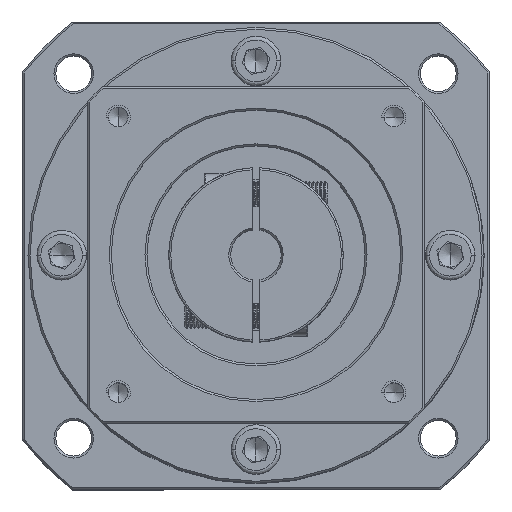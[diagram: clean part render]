
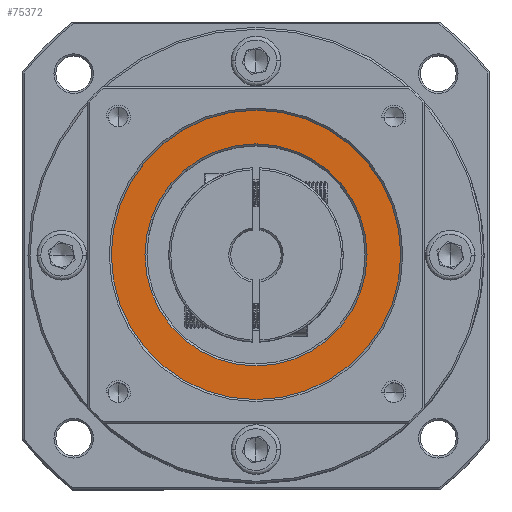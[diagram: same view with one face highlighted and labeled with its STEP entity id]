
A CAD part, top view. The second image highlights one B-rep face of the part: STEP entity #75372.
In plain terms, the highlighted planar face has unit normal (0, 0, 1).
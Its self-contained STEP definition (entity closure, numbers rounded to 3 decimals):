
#545 = DIRECTION ( 'NONE',  ( 0., 0., 1. ) ) ;
#3437 = EDGE_CURVE ( 'NONE', #57305, #42188, #37433, .T. ) ;
#6328 = DIRECTION ( 'NONE',  ( 0., 0., -1. ) ) ;
#16695 = VERTEX_POINT ( 'NONE', #109879 ) ;
#20981 = DIRECTION ( 'NONE',  ( 0., 0., 1. ) ) ;
#23026 = VERTEX_POINT ( 'NONE', #23526 ) ;
#23526 = CARTESIAN_POINT ( 'NONE',  ( 81.574, -0.785, 102.5 ) ) ;
#32195 = DIRECTION ( 'NONE',  ( 0., 0., -1. ) ) ;
#34769 = CARTESIAN_POINT ( 'NONE',  ( 45.074, -0.785, 102.5 ) ) ;
#36275 = CARTESIAN_POINT ( 'NONE',  ( 17.074, -0.785, 102.5 ) ) ;
#36625 = FACE_OUTER_BOUND ( 'NONE', #57461, .T. ) ;
#37433 = CIRCLE ( 'NONE', #77470, 28. ) ;
#41907 = AXIS2_PLACEMENT_3D ( 'NONE', #53164, #545, #61959 ) ;
#42188 = VERTEX_POINT ( 'NONE', #36275 ) ;
#43573 = DIRECTION ( 'NONE',  ( 1., 0., 0. ) ) ;
#46102 = CIRCLE ( 'NONE', #41907, 36.5 ) ;
#47452 = EDGE_LOOP ( 'NONE', ( #67779, #71038 ) ) ;
#50809 = CIRCLE ( 'NONE', #59651, 36.5 ) ;
#53164 = CARTESIAN_POINT ( 'NONE',  ( 45.074, -0.785, 102.5 ) ) ;
#57305 = VERTEX_POINT ( 'NONE', #91188 ) ;
#57461 = EDGE_LOOP ( 'NONE', ( #91327, #69247 ) ) ;
#58886 = CARTESIAN_POINT ( 'NONE',  ( 45.074, -0.785, 102.5 ) ) ;
#59651 = AXIS2_PLACEMENT_3D ( 'NONE', #34769, #95994, #43573 ) ;
#59935 = EDGE_CURVE ( 'NONE', #42188, #57305, #87042, .T. ) ;
#61959 = DIRECTION ( 'NONE',  ( 1., 0., 0. ) ) ;
#64316 = PLANE ( 'NONE',  #92652 ) ;
#65798 = EDGE_CURVE ( 'NONE', #23026, #16695, #50809, .T. ) ;
#67685 = DIRECTION ( 'NONE',  ( 1., 0., 0. ) ) ;
#67779 = ORIENTED_EDGE ( 'NONE', *, *, #3437, .T. ) ;
#69247 = ORIENTED_EDGE ( 'NONE', *, *, #95274, .T. ) ;
#71038 = ORIENTED_EDGE ( 'NONE', *, *, #59935, .T. ) ;
#73474 = CARTESIAN_POINT ( 'NONE',  ( 45.074, -0.785, 102.5 ) ) ;
#73620 = FACE_BOUND ( 'NONE', #47452, .T. ) ;
#75372 = ADVANCED_FACE ( 'NONE', ( #36625, #73620 ), #64316, .T. ) ;
#77470 = AXIS2_PLACEMENT_3D ( 'NONE', #58886, #6328, #67685 ) ;
#82227 = DIRECTION ( 'NONE',  ( 1., 0., 0. ) ) ;
#84584 = CARTESIAN_POINT ( 'NONE',  ( 45.074, -0.785, 102.5 ) ) ;
#87042 = CIRCLE ( 'NONE', #101296, 28. ) ;
#91188 = CARTESIAN_POINT ( 'NONE',  ( 73.074, -0.785, 102.5 ) ) ;
#91327 = ORIENTED_EDGE ( 'NONE', *, *, #65798, .T. ) ;
#92652 = AXIS2_PLACEMENT_3D ( 'NONE', #73474, #20981, #82227 ) ;
#93395 = DIRECTION ( 'NONE',  ( 1., 0., 0. ) ) ;
#95274 = EDGE_CURVE ( 'NONE', #16695, #23026, #46102, .T. ) ;
#95994 = DIRECTION ( 'NONE',  ( 0., 0., 1. ) ) ;
#101296 = AXIS2_PLACEMENT_3D ( 'NONE', #84584, #32195, #93395 ) ;
#109879 = CARTESIAN_POINT ( 'NONE',  ( 8.574, -0.785, 102.5 ) ) ;
